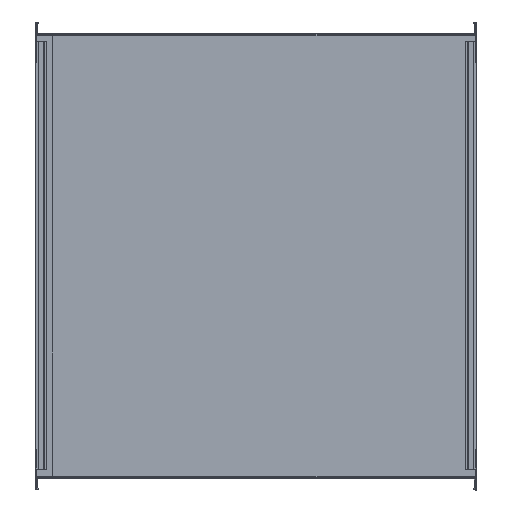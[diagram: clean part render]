
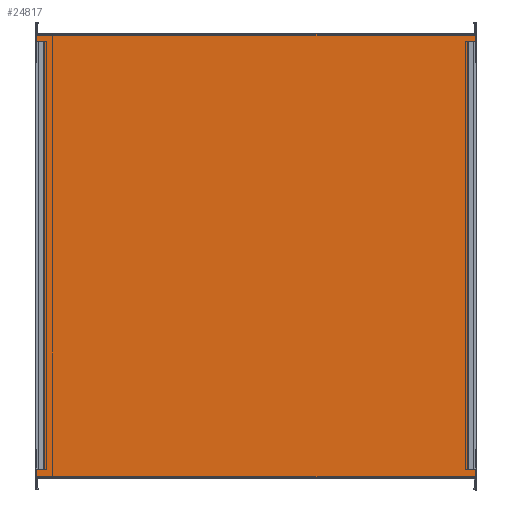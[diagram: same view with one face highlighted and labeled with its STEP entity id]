
A CAD part, top view. The second image highlights one B-rep face of the part: STEP entity #24817.
In plain terms, the highlighted planar face has unit normal (0, 0, 1).
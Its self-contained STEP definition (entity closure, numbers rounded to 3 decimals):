
#962=FACE_BOUND('',#3764,.T.);
#963=FACE_BOUND('',#3765,.T.);
#2446=FACE_OUTER_BOUND('',#3763,.T.);
#3763=EDGE_LOOP('',(#22192,#22193,#22194,#22195,#22196,#22197));
#3764=EDGE_LOOP('',(#22198,#22199,#22200,#22201));
#3765=EDGE_LOOP('',(#22202,#22203,#22204,#22205));
#4710=LINE('',#34443,#7145);
#5121=LINE('',#38140,#7556);
#5133=LINE('',#38166,#7568);
#5209=LINE('',#38433,#7644);
#5861=LINE('',#40593,#8296);
#5894=LINE('',#40692,#8329);
#5895=LINE('',#40694,#8330);
#6438=LINE('',#42111,#8873);
#6471=LINE('',#42208,#8906);
#6472=LINE('',#42210,#8907);
#6495=LINE('',#42255,#8930);
#6748=LINE('',#42835,#9183);
#6749=LINE('',#42837,#9184);
#6762=LINE('',#42860,#9197);
#7145=VECTOR('',#26863,10.);
#7556=VECTOR('',#27460,10.);
#7568=VECTOR('',#27476,10.);
#7644=VECTOR('',#27676,10.);
#8296=VECTOR('',#29310,10.);
#8329=VECTOR('',#29397,10.);
#8330=VECTOR('',#29400,10.);
#8873=VECTOR('',#30841,10.);
#8906=VECTOR('',#30926,10.);
#8907=VECTOR('',#30929,10.);
#8930=VECTOR('',#30996,10.);
#9183=VECTOR('',#31609,10.);
#9184=VECTOR('',#31612,10.);
#9197=VECTOR('',#31635,10.);
#9613=VERTEX_POINT('',#34440);
#9614=VERTEX_POINT('',#34442);
#10114=VERTEX_POINT('',#38137);
#10115=VERTEX_POINT('',#38139);
#10126=VERTEX_POINT('',#38164);
#10127=VERTEX_POINT('',#38165);
#10255=VERTEX_POINT('',#38431);
#10256=VERTEX_POINT('',#38432);
#10280=VERTEX_POINT('',#38480);
#10904=VERTEX_POINT('',#40591);
#10905=VERTEX_POINT('',#40592);
#11368=VERTEX_POINT('',#42109);
#11369=VERTEX_POINT('',#42110);
#11384=VERTEX_POINT('',#42141);
#12168=EDGE_CURVE('',#9614,#9613,#4710,.T.);
#12913=EDGE_CURVE('',#10115,#10114,#5121,.T.);
#12925=EDGE_CURVE('',#10126,#10127,#5133,.T.);
#13058=EDGE_CURVE('',#10255,#10256,#5209,.T.);
#13966=EDGE_CURVE('',#10904,#10905,#5861,.T.);
#14018=EDGE_CURVE('',#10127,#10904,#5894,.T.);
#14019=EDGE_CURVE('',#10905,#10126,#5895,.T.);
#14734=EDGE_CURVE('',#11368,#11369,#6438,.T.);
#14785=EDGE_CURVE('',#10256,#11368,#6471,.T.);
#14786=EDGE_CURVE('',#11369,#10255,#6472,.T.);
#14809=EDGE_CURVE('',#10280,#11384,#6495,.T.);
#15102=EDGE_CURVE('',#10115,#10280,#6748,.T.);
#15103=EDGE_CURVE('',#11384,#9613,#6749,.T.);
#15116=EDGE_CURVE('',#9614,#10114,#6762,.T.);
#22192=ORIENTED_EDGE('',*,*,#12168,.T.);
#22193=ORIENTED_EDGE('',*,*,#15103,.F.);
#22194=ORIENTED_EDGE('',*,*,#14809,.F.);
#22195=ORIENTED_EDGE('',*,*,#15102,.F.);
#22196=ORIENTED_EDGE('',*,*,#12913,.T.);
#22197=ORIENTED_EDGE('',*,*,#15116,.F.);
#22198=ORIENTED_EDGE('',*,*,#12925,.T.);
#22199=ORIENTED_EDGE('',*,*,#14018,.T.);
#22200=ORIENTED_EDGE('',*,*,#13966,.T.);
#22201=ORIENTED_EDGE('',*,*,#14019,.T.);
#22202=ORIENTED_EDGE('',*,*,#13058,.T.);
#22203=ORIENTED_EDGE('',*,*,#14785,.T.);
#22204=ORIENTED_EDGE('',*,*,#14734,.T.);
#22205=ORIENTED_EDGE('',*,*,#14786,.T.);
#22882=PLANE('',#26292);
#24817=ADVANCED_FACE('',(#2446,#962,#963),#22882,.F.);
#26292=AXIS2_PLACEMENT_3D('',#42859,#31633,#31634);
#26863=DIRECTION('',(-1.,0.,0.));
#27460=DIRECTION('',(1.,0.,0.));
#27476=DIRECTION('',(1.,0.,0.));
#27676=DIRECTION('',(-1.,0.,0.));
#29310=DIRECTION('',(-1.,0.,0.));
#29397=DIRECTION('',(0.,-1.,0.));
#29400=DIRECTION('',(0.,1.,0.));
#30841=DIRECTION('',(1.,0.,0.));
#30926=DIRECTION('',(0.,1.,0.));
#30929=DIRECTION('',(0.,-1.,0.));
#30996=DIRECTION('',(0.,1.,0.));
#31609=DIRECTION('',(0.,1.,0.));
#31612=DIRECTION('',(0.,1.,0.));
#31633=DIRECTION('center_axis',(0.,0.,-1.));
#31634=DIRECTION('ref_axis',(-1.,0.,0.));
#31635=DIRECTION('',(0.,-1.,0.));
#34440=CARTESIAN_POINT('',(-998.,1003.,1.5));
#34442=CARTESIAN_POINT('',(0.,1003.,1.5));
#34443=CARTESIAN_POINT('',(-748.5,1003.,1.5));
#38137=CARTESIAN_POINT('',(0.,0.,1.5));
#38139=CARTESIAN_POINT('',(-998.,0.,1.5));
#38140=CARTESIAN_POINT('',(-249.5,0.,1.5));
#38164=CARTESIAN_POINT('',(-19.241,986.5,1.5));
#38165=CARTESIAN_POINT('',(-5.79,986.5,1.5));
#38166=CARTESIAN_POINT('',(-486.29,986.5,1.5));
#38431=CARTESIAN_POINT('',(-978.359,16.5,1.5));
#38432=CARTESIAN_POINT('',(-991.81,16.5,1.5));
#38433=CARTESIAN_POINT('',(-979.51,16.5,1.5));
#38480=CARTESIAN_POINT('',(-998.,16.5,1.5));
#40591=CARTESIAN_POINT('',(-5.79,16.5,1.5));
#40592=CARTESIAN_POINT('',(-19.241,16.5,1.5));
#40593=CARTESIAN_POINT('',(-486.29,16.5,1.5));
#40692=CARTESIAN_POINT('',(-5.79,164.,1.5));
#40694=CARTESIAN_POINT('',(-19.241,16.5,1.5));
#42109=CARTESIAN_POINT('',(-991.81,986.5,1.5));
#42110=CARTESIAN_POINT('',(-978.359,986.5,1.5));
#42111=CARTESIAN_POINT('',(-979.51,986.5,1.5));
#42141=CARTESIAN_POINT('',(-998.,986.5,1.5));
#42208=CARTESIAN_POINT('',(-991.81,649.,1.5));
#42210=CARTESIAN_POINT('',(-978.359,986.5,1.5));
#42255=CARTESIAN_POINT('',(-998.,0.,1.5));
#42835=CARTESIAN_POINT('',(-998.,0.,1.5));
#42837=CARTESIAN_POINT('',(-998.,0.,1.5));
#42859=CARTESIAN_POINT('Origin',(-967.,311.5,1.5));
#42860=CARTESIAN_POINT('',(0.,1003.,1.5));
